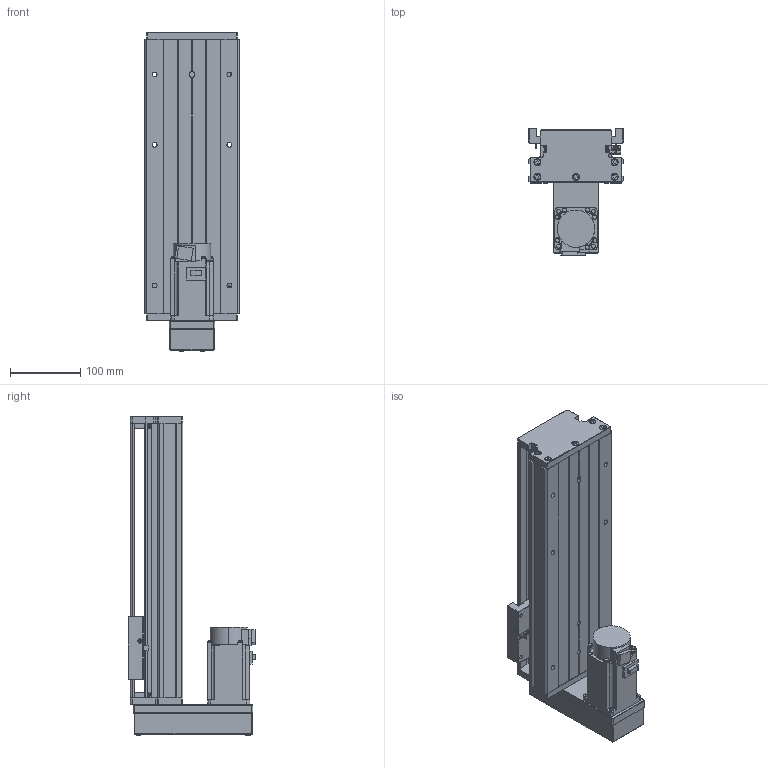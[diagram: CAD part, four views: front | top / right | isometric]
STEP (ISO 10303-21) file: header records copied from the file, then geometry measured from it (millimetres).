
FILE_DESCRIPTION (( 'STEP AP203' ), '1' );
FILE_NAME ('KTH130-250-BM-M40-C4.step', '2023-06-30T04:03:57', ( '微软用户' ), ( '微软中国' ), 'SwSTEP 2.0', 'SolidWorks 2020', '' );
FILE_SCHEMA (( 'CONFIG_CONTROL_DESIGN' ));
Length unit declared in the file: millimetre
Products named in the file (19): GBT 70.2-M3¡Á5_M3¡Á6; GBT 70.3-M3℅8; GTH14-001_250; CTHA60-017; HG-KN43J-S100; KTH130-002_KTH130-002; EE_SX911P_R; GBT 70.2-M4¡Á35_M4¡Á35; KTH130-004; CTHA60-016; GTH14-015-2_CTHA86-015-2; KTH130-005; GBT 70.1-M3℅5; GTH14-033; GB1155-6X6; GBT77-2000 M3×3; KTH130-250-BM-M40-C4; GBT70.1 M5℅16; す晦芛蹟隊 M3℅5
Assembly tree (53 placements, depth 2):
  KTH130-250-BM-M40-C4
    GTH14-001_250
    KTH130-002_KTH130-002
    KTH130-004
    KTH130-005
    GB1155-6X6  x2
    GBT70.1 M5℅16  x10
    GBT 70.2-M3¡Á5_M3¡Á6  x4
    CTHA60-017  x3
    EE_SX911P_R  x3
    CTHA60-016  x2
    GBT 70.1-M3℅5  x6
    GBT77-2000 M3×3  x6
    す晦芛蹟隊 M3℅5  x2
    GBT 70.3-M3℅8  x4
    HG-KN43J-S100
    GBT 70.2-M4¡Á35_M4¡Á35  x4
    GTH14-015-2_CTHA86-015-2
    GTH14-033
Bounding box: 135 x 181.8 x 454.2 mm (x, y, z)
Volume: 2851781 mm3; surface area: 513053.6 mm2
Topology: 56 solids, 56 shells, 2203 faces, 5318 edges, 3310 vertices
Faces by surface type: plane 1193, cylinder 596, cone 290, torus 100, sphere 24
Entity records: 39942 total; most frequent: CARTESIAN_POINT 8534, DIRECTION 5919, ORIENTED_EDGE 5836, EDGE_CURVE 2918, AXIS2_PLACEMENT_3D 2026, VECTOR 1867, LINE 1867, VERTEX_POINT 1863
